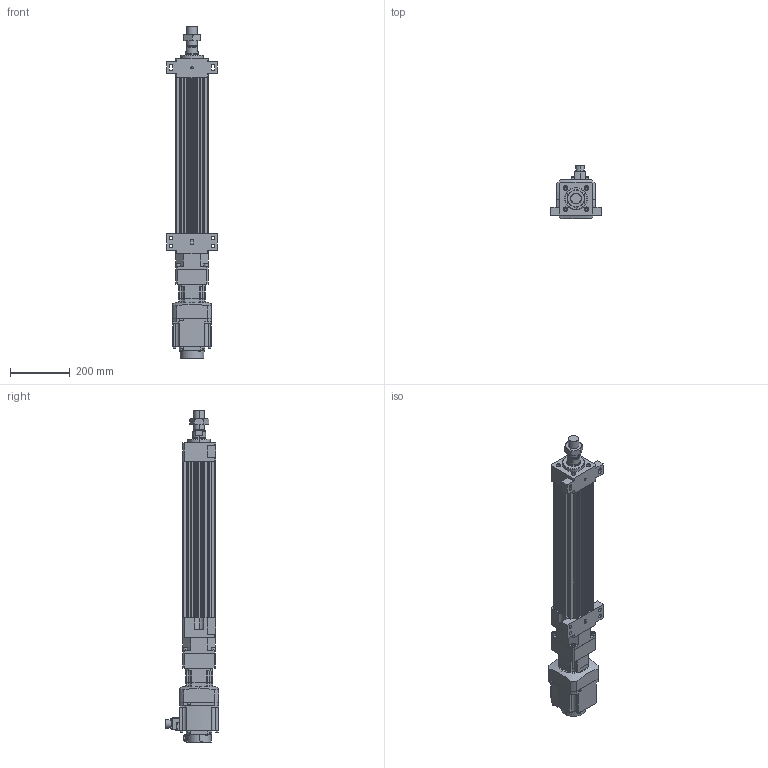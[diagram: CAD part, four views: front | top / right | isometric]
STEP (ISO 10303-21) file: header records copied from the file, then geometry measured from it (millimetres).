
FILE_DESCRIPTION (( 'STEP AP203' ), '1' );
FILE_NAME ('HES110NS(HS)-S350-W010G00-M-FFB.STEP', '2023-01-27T05:36:47', ( 'tms' ), ( '' ), 'SwSTEP 2.0', 'SolidWorks 2013', '' );
FILE_SCHEMA (( 'CONFIG_CONTROL_DESIGN' ));
Length unit declared in the file: millimetre
Products named in the file (8): HES110NS(HS)-S350-W010G00-M-FFB; AB090-003[HG-SR102B]; M36X1.5P; HG-SR102; HES110 ROD M ST350; HES110-S350-G090-FFB; P0401301004; AB0901
Assembly tree (7 placements, depth 3):
  HES110NS(HS)-S350-W010G00-M-FFB
    HES110-S350-G090-FFB
    HES110 ROD M ST350
    M36X1.5P
    AB090-003[HG-SR102B]
      AB0901
      P0401301004
    HG-SR102
Bounding box: 170 x 177.49 x 1108.5 mm (x, y, z)
Volume: 7250914.7 mm3; surface area: 974787.1 mm2
Topology: 4 solids, 15 shells, 1189 faces, 3015 edges, 1964 vertices
Faces by surface type: plane 570, cylinder 529, cone 78, bspline 8, torus 4
Entity records: 37852 total; most frequent: CARTESIAN_POINT 7358, DIRECTION 6498, ORIENTED_EDGE 5982, EDGE_CURVE 3001, AXIS2_PLACEMENT_3D 2375, VERTEX_POINT 1964, LINE 1748, VECTOR 1748
